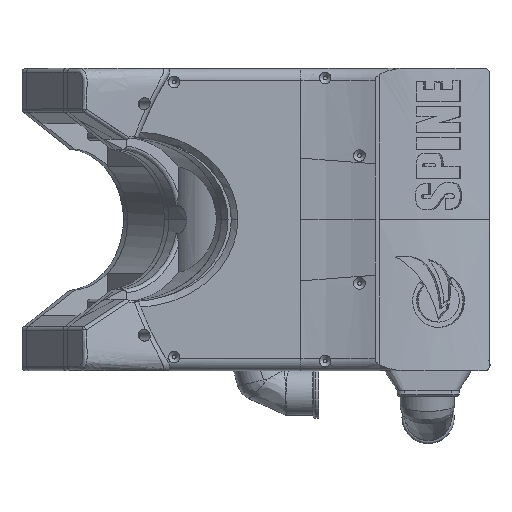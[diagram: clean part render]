
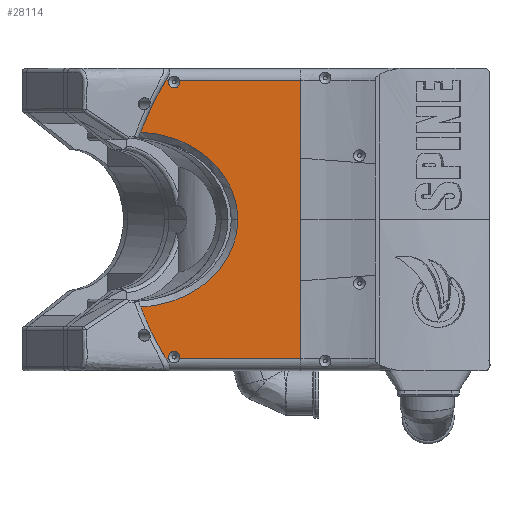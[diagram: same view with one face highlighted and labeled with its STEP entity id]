
A CAD part, top view. The second image highlights one B-rep face of the part: STEP entity #28114.
In plain terms, the highlighted planar face has unit normal (0, 0, 1).
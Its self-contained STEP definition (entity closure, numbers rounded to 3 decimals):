
#722=B_SPLINE_CURVE_WITH_KNOTS($,3,(#56719,#56720,#56721,#56722,#56723,
#56724,#56725,#56726,#56727,#56728,#56729,#56730,#56731),.UNSPECIFIED.,
 .F.,.F.,(4,3,3,3,4),(0.,1.086,3.259,
5.432,7.452),.UNSPECIFIED.);
#736=B_SPLINE_CURVE_WITH_KNOTS($,3,(#56898,#56899,#56900,#56901,#56902,
#56903,#56904,#56905,#56906,#56907,#56908,#56909,#56910),.UNSPECIFIED.,
 .F.,.F.,(4,3,3,3,4),(0.102,2.167,4.34,
5.427,7.6),.UNSPECIFIED.);
#744=B_SPLINE_CURVE_WITH_KNOTS($,3,(#57031,#57032,#57033,#57034),
 .UNSPECIFIED.,.F.,.F.,(4,4),(-3.274,-0.281),
 .UNSPECIFIED.);
#745=B_SPLINE_CURVE_WITH_KNOTS($,3,(#57055,#57056,#57057,#57058),
 .UNSPECIFIED.,.F.,.F.,(4,4),(-3.274,-0.281),
 .UNSPECIFIED.);
#3287=CIRCLE($,#30790,0.3);
#3288=CIRCLE($,#30791,0.3);
#4694=FACE_OUTER_BOUND($,#6776,.T.);
#6776=EDGE_LOOP($,(#24667,#24668,#24669,#24670,#24671,#24672,#24673,#24674,
#24675,#24676,#24677,#24678,#24679,#24680));
#8943=LINE($,#57036,#11100);
#8944=LINE($,#57040,#11101);
#8945=LINE($,#57042,#11102);
#8946=LINE($,#57044,#11103);
#8947=LINE($,#57046,#11104);
#8948=LINE($,#57048,#11105);
#8949=LINE($,#57050,#11106);
#8950=LINE($,#57054,#11107);
#11100=VECTOR($,#37704,0.137);
#11101=VECTOR($,#37707,6.261);
#11102=VECTOR($,#37708,4.031);
#11103=VECTOR($,#37709,3.169);
#11104=VECTOR($,#37710,3.169);
#11105=VECTOR($,#37711,4.031);
#11106=VECTOR($,#37712,6.261);
#11107=VECTOR($,#37715,0.137);
#13604=VERTEX_POINT($,#56710);
#13605=VERTEX_POINT($,#56718);
#13619=VERTEX_POINT($,#56862);
#13630=VERTEX_POINT($,#57030);
#13631=VERTEX_POINT($,#57035);
#13632=VERTEX_POINT($,#57037);
#13633=VERTEX_POINT($,#57039);
#13634=VERTEX_POINT($,#57041);
#13635=VERTEX_POINT($,#57043);
#13636=VERTEX_POINT($,#57045);
#13637=VERTEX_POINT($,#57047);
#13638=VERTEX_POINT($,#57049);
#13639=VERTEX_POINT($,#57051);
#13640=VERTEX_POINT($,#57053);
#17378=EDGE_CURVE($,#13605,#13604,#722,.T.);
#17397=EDGE_CURVE($,#13619,#13605,#736,.T.);
#17412=EDGE_CURVE($,#13604,#13630,#744,.T.);
#17413=EDGE_CURVE($,#13631,#13630,#8943,.T.);
#17414=EDGE_CURVE($,#13632,#13631,#3287,.T.);
#17415=EDGE_CURVE($,#13633,#13632,#8944,.T.);
#17416=EDGE_CURVE($,#13633,#13634,#8945,.T.);
#17417=EDGE_CURVE($,#13634,#13635,#8946,.T.);
#17418=EDGE_CURVE($,#13636,#13635,#8947,.T.);
#17419=EDGE_CURVE($,#13637,#13636,#8948,.T.);
#17420=EDGE_CURVE($,#13637,#13638,#8949,.T.);
#17421=EDGE_CURVE($,#13638,#13639,#3288,.T.);
#17422=EDGE_CURVE($,#13639,#13640,#8950,.T.);
#17423=EDGE_CURVE($,#13619,#13640,#745,.T.);
#24667=ORIENTED_EDGE($,*,*,#17378,.T.);
#24668=ORIENTED_EDGE($,*,*,#17412,.T.);
#24669=ORIENTED_EDGE($,*,*,#17413,.F.);
#24670=ORIENTED_EDGE($,*,*,#17414,.F.);
#24671=ORIENTED_EDGE($,*,*,#17415,.F.);
#24672=ORIENTED_EDGE($,*,*,#17416,.T.);
#24673=ORIENTED_EDGE($,*,*,#17417,.T.);
#24674=ORIENTED_EDGE($,*,*,#17418,.F.);
#24675=ORIENTED_EDGE($,*,*,#17419,.F.);
#24676=ORIENTED_EDGE($,*,*,#17420,.T.);
#24677=ORIENTED_EDGE($,*,*,#17421,.T.);
#24678=ORIENTED_EDGE($,*,*,#17422,.T.);
#24679=ORIENTED_EDGE($,*,*,#17423,.F.);
#24680=ORIENTED_EDGE($,*,*,#17397,.T.);
#26676=PLANE($,#30789);
#28114=ADVANCED_FACE($,(#4694),#26676,.T.);
#30789=AXIS2_PLACEMENT_3D($,#57029,#37702,#37703);
#30790=AXIS2_PLACEMENT_3D($,#57038,#37705,#37706);
#30791=AXIS2_PLACEMENT_3D($,#57052,#37713,#37714);
#37702=DIRECTION('center_axis',(0.,0.,
1.));
#37703=DIRECTION('ref_axis',(1.,0.,0.));
#37704=DIRECTION($,(-1.,0.,0.));
#37705=DIRECTION('center_axis',(0.,0.,
1.));
#37706=DIRECTION('ref_axis',(1.,0.,0.));
#37707=DIRECTION($,(-1.,0.,0.));
#37708=DIRECTION($,(0.,1.,0.));
#37709=DIRECTION($,(0.,1.,0.));
#37710=DIRECTION($,(0.,-1.,0.));
#37711=DIRECTION($,(0.,-1.,0.));
#37712=DIRECTION($,(-1.,0.,0.));
#37713=DIRECTION('center_axis',(0.,0.,
-1.));
#37714=DIRECTION('ref_axis',(1.,0.,0.));
#37715=DIRECTION($,(-1.,0.,0.));
#56710=CARTESIAN_POINT('',(-6.062,0.983,12.6));
#56718=CARTESIAN_POINT('',(-1.028,5.5,12.6));
#56719=CARTESIAN_POINT('Ctrl Pts',(-1.028,5.5,12.6));
#56720=CARTESIAN_POINT('Ctrl Pts',(-1.03,5.162,12.6));
#56721=CARTESIAN_POINT('Ctrl Pts',(-1.076,4.823,12.6));
#56722=CARTESIAN_POINT('Ctrl Pts',(-1.165,4.495,12.6));
#56723=CARTESIAN_POINT('Ctrl Pts',(-1.343,3.837,12.6));
#56724=CARTESIAN_POINT('Ctrl Pts',(-1.694,3.216,12.6));
#56725=CARTESIAN_POINT('Ctrl Pts',(-2.18,2.692,12.6));
#56726=CARTESIAN_POINT('Ctrl Pts',(-2.666,2.168,12.6));
#56727=CARTESIAN_POINT('Ctrl Pts',(-3.288,1.741,12.6));
#56728=CARTESIAN_POINT('Ctrl Pts',(-3.984,1.447,12.6));
#56729=CARTESIAN_POINT('Ctrl Pts',(-4.631,1.173,12.6));
#56730=CARTESIAN_POINT('Ctrl Pts',(-5.343,1.015,12.6));
#56731=CARTESIAN_POINT('Ctrl Pts',(-6.062,0.983,
12.6));
#56862=CARTESIAN_POINT('',(-6.062,10.017,12.6));
#56898=CARTESIAN_POINT('Ctrl Pts',(-6.062,10.017,12.6));
#56899=CARTESIAN_POINT('Ctrl Pts',(-5.331,9.984,12.6));
#56900=CARTESIAN_POINT('Ctrl Pts',(-4.609,9.822,12.6));
#56901=CARTESIAN_POINT('Ctrl Pts',(-3.954,9.541,12.6));
#56902=CARTESIAN_POINT('Ctrl Pts',(-3.264,9.244,12.6));
#56903=CARTESIAN_POINT('Ctrl Pts',(-2.65,8.816,12.6));
#56904=CARTESIAN_POINT('Ctrl Pts',(-2.168,8.294,12.6));
#56905=CARTESIAN_POINT('Ctrl Pts',(-1.927,8.033,12.6));
#56906=CARTESIAN_POINT('Ctrl Pts',(-1.719,7.748,12.6));
#56907=CARTESIAN_POINT('Ctrl Pts',(-1.551,7.446,12.6));
#56908=CARTESIAN_POINT('Ctrl Pts',(-1.213,6.843,12.6));
#56909=CARTESIAN_POINT('Ctrl Pts',(-1.032,6.173,12.6));
#56910=CARTESIAN_POINT('Ctrl Pts',(-1.028,5.5,12.6));
#57029=CARTESIAN_POINT('Origin',(-6.628,13.3,12.6));
#57030=CARTESIAN_POINT('',(-4.739,-1.7,12.6));
#57031=CARTESIAN_POINT('Ctrl Pts',(-6.062,0.983,
12.6));
#57032=CARTESIAN_POINT('Ctrl Pts',(-5.696,0.025,
12.6));
#57033=CARTESIAN_POINT('Ctrl Pts',(-5.25,-0.881,
12.6));
#57034=CARTESIAN_POINT('Ctrl Pts',(-4.739,-1.7,12.6));
#57035=CARTESIAN_POINT('',(-4.602,-1.7,12.6));
#57036=CARTESIAN_POINT($,(-0.68,-1.7,12.6));
#57037=CARTESIAN_POINT('',(-4.036,-1.7,12.6));
#57038=CARTESIAN_POINT('Origin',(-4.319,-1.6,12.6));
#57039=CARTESIAN_POINT('',(2.225,-1.7,12.6));
#57040=CARTESIAN_POINT($,(-0.68,-1.7,12.6));
#57041=CARTESIAN_POINT('',(2.225,2.331,12.6));
#57042=CARTESIAN_POINT($,(2.225,-2.3,12.6));
#57043=CARTESIAN_POINT('',(2.225,5.5,12.6));
#57044=CARTESIAN_POINT($,(2.225,2.331,12.6));
#57045=CARTESIAN_POINT('',(2.225,8.669,12.6));
#57046=CARTESIAN_POINT($,(2.225,8.669,12.6));
#57047=CARTESIAN_POINT('',(2.225,12.7,12.6));
#57048=CARTESIAN_POINT($,(2.225,13.3,12.6));
#57049=CARTESIAN_POINT('',(-4.036,12.7,12.6));
#57050=CARTESIAN_POINT($,(-0.68,12.7,12.6));
#57051=CARTESIAN_POINT('',(-4.602,12.7,12.6));
#57052=CARTESIAN_POINT('Origin',(-4.319,12.6,12.6));
#57053=CARTESIAN_POINT('',(-4.739,12.7,12.6));
#57054=CARTESIAN_POINT($,(-0.68,12.7,12.6));
#57055=CARTESIAN_POINT('Ctrl Pts',(-6.062,10.017,12.6));
#57056=CARTESIAN_POINT('Ctrl Pts',(-5.696,10.975,12.6));
#57057=CARTESIAN_POINT('Ctrl Pts',(-5.25,11.881,12.6));
#57058=CARTESIAN_POINT('Ctrl Pts',(-4.739,12.7,12.6));
